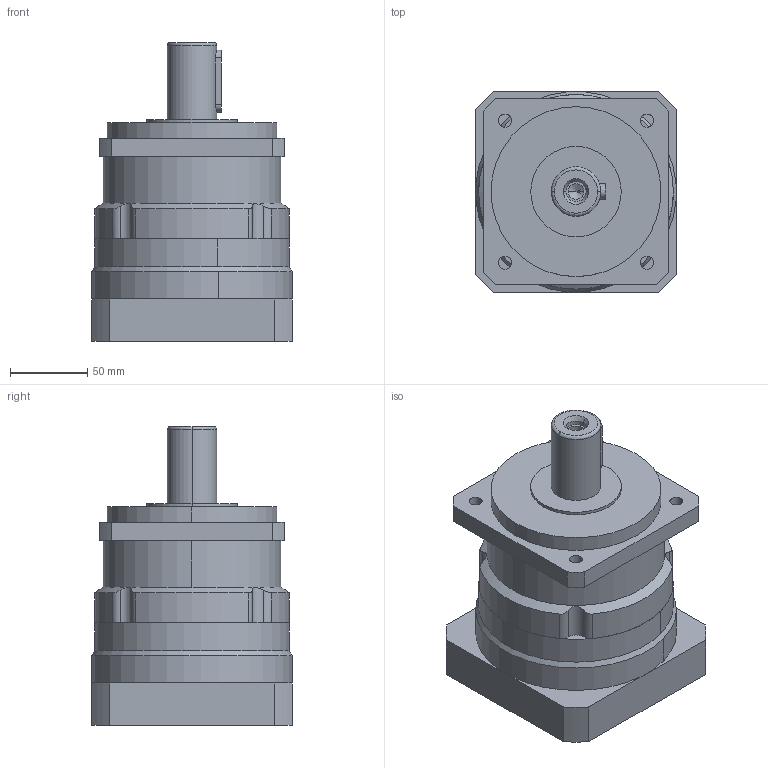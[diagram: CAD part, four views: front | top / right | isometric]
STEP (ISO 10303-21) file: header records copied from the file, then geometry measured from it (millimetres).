
FILE_DESCRIPTION (( 'STEP AP203' ), '1' );
FILE_NAME ('PLM120-L1-19-95-115.STEP', '2023-10-30T03:21:16', ( 'Windows User' ), ( 'P R C' ), 'SwSTEP 2.0', 'SolidWorks 2016', '' );
FILE_SCHEMA (( 'CONFIG_CONTROL_DESIGN' ));
Length unit declared in the file: millimetre
Products named in the file (8): 邧埴瑩 10x8x40; PLM120-LJ56 130選 95x7 115xM8 27.5L 61(55); PLM120-L1-19-95-115; PLM120-本体齿圈; PLM120-薊粣ん-19_LZ03; PLM120-狟裔; 囀鞠褒蹟佪-M8℅25; 粣創-6009 45x75x16
Assembly tree (7 placements, depth 2):
  PLM120-L1-19-95-115
    PLM120-本体齿圈
    PLM120-薊粣ん-19_LZ03
    PLM120-狟裔
    囀鞠褒蹟佪-M8℅25
    粣創-6009 45x75x16
    邧埴瑩 10x8x40
    PLM120-LJ56 130選 95x7 115xM8 27.5L 61(55)
Bounding box: 130 x 130 x 193.5 mm (x, y, z)
Volume: 1658144.6 mm3; surface area: 215812.9 mm2
Topology: 7 solids, 7 shells, 969 faces, 2638 edges, 1739 vertices
Faces by surface type: plane 523, bspline 274, cylinder 154, cone 18
Entity records: 42090 total; most frequent: CARTESIAN_POINT 18442, ORIENTED_EDGE 5256, DIRECTION 3858, EDGE_CURVE 2628, VERTEX_POINT 1739, LINE 1488, VECTOR 1488, AXIS2_PLACEMENT_3D 1185
